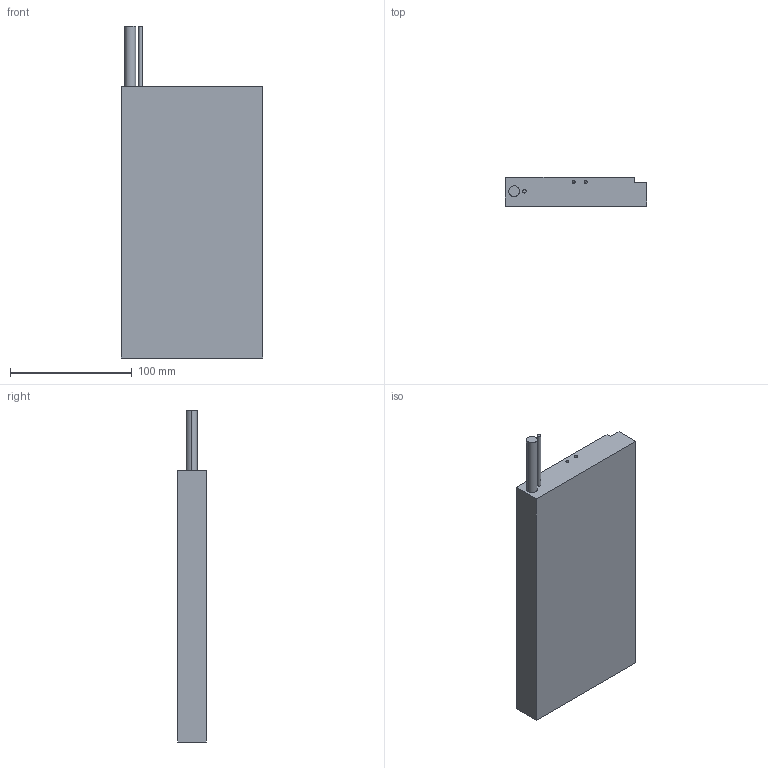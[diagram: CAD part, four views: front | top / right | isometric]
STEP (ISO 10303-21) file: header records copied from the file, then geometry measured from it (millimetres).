
FILE_DESCRIPTION (( 'STEP AP203' ), '1' );
FILE_NAME ('LMSA32.STEP', '2016-05-13T03:17:51', ( '' ), ( '' ), 'SwSTEP 2.0', 'SolidWorks 2015', '' );
FILE_SCHEMA (( 'CONFIG_CONTROL_DESIGN' ));
Length unit declared in the file: millimetre
Products named in the file (1): LMSA32
Bounding box: 116 x 23.7 x 273 mm (x, y, z)
Volume: 606208.5 mm3; surface area: 70424 mm2
Topology: 1 solids, 1 shells, 96 faces, 236 edges, 124 vertices
Faces by surface type: cylinder 44, cone 40, plane 12
Entity records: 2605 total; most frequent: DIRECTION 478, CARTESIAN_POINT 417, ORIENTED_EDGE 392, EDGE_CURVE 196, AXIS2_PLACEMENT_3D 185, VERTEX_POINT 124, EDGE_LOOP 118, VECTOR 108
